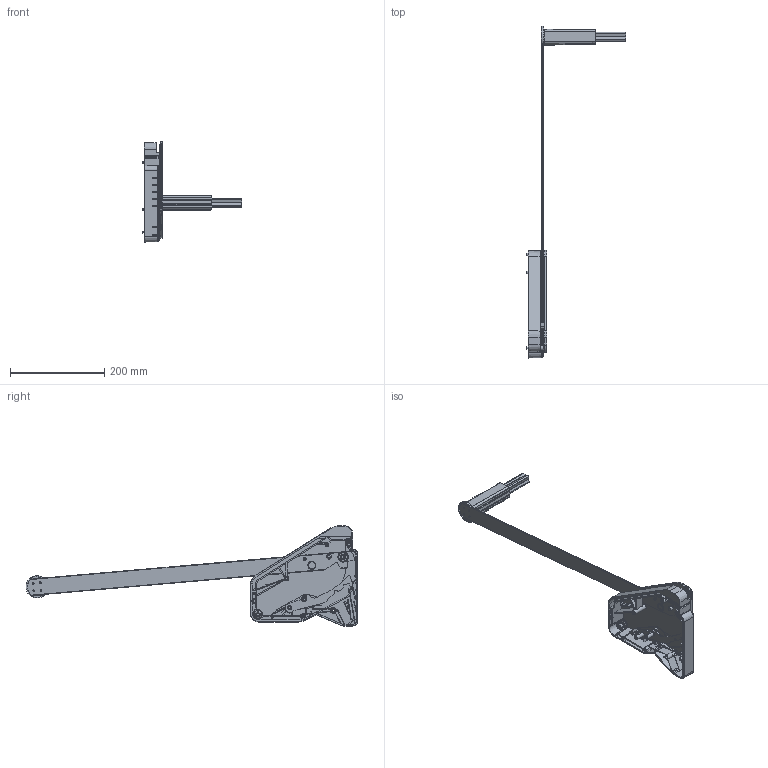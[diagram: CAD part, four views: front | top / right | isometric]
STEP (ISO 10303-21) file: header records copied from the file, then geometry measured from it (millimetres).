
FILE_DESCRIPTION((''),'2;1');
FILE_NAME('238278-LI_SW0002','2023-02-06T10:25:05',('1ke04'),('Kesseboehmer'),'CREO PARAMETRIC BY PTC INC, 2020414','CREO PARAMETRIC BY PTC INC, 2020414','');
FILE_SCHEMA(('AUTOMOTIVE_DESIGN { 1 0 10303 214 1 1 1 1 }'));
Products named in the file (1): 238278-LI_SW0002
Bounding box: 211 x 704.42 x 212.35 mm (x, y, z)
Volume: 403128.3 mm3; surface area: 357065.7 mm2
Topology: 2 solids, 2 shells, 3109 faces, 7742 edges, 4668 vertices
Faces by surface type: plane 1818, cylinder 791, torus 209, cone 117, extrusion 107, bspline 58, sphere 9
Entity records: 119664 total; most frequent: CARTESIAN_POINT 24079, ORIENTED_EDGE 15460, DIRECTION 15424, EDGE_CURVE 7730, AXIS2_PLACEMENT_3D 5409, VERTEX_POINT 4667, VECTOR 4603, LINE 4496
